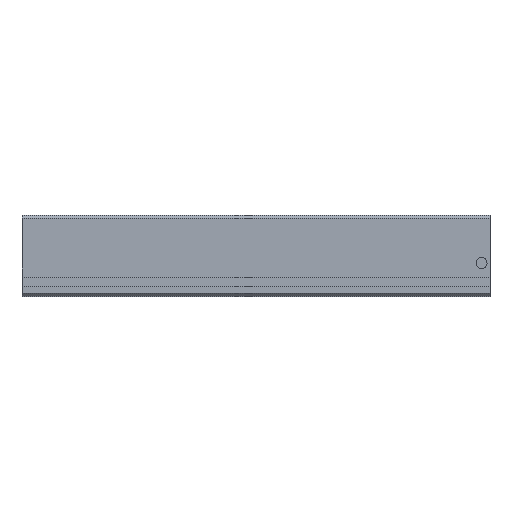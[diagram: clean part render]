
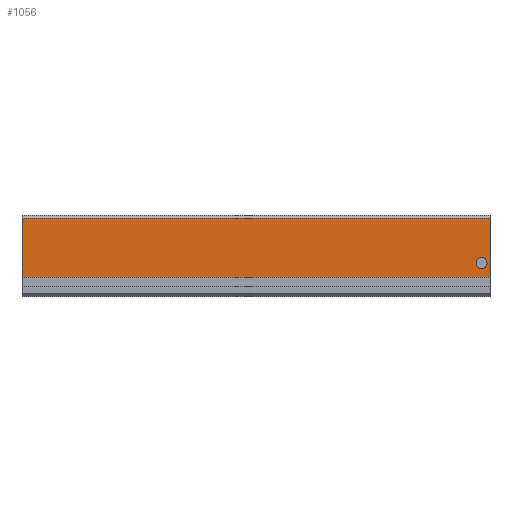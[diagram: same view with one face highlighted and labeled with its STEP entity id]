
A CAD part, top view. The second image highlights one B-rep face of the part: STEP entity #1056.
In plain terms, the highlighted planar face has unit normal (0, 0, 1).
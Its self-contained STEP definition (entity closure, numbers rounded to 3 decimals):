
#70 = VECTOR ( 'NONE', #278, 1000. ) ;
#88 = CARTESIAN_POINT ( 'NONE',  ( 160., 6.6, 0. ) ) ;
#139 = VECTOR ( 'NONE', #245, 1000. ) ;
#148 = VERTEX_POINT ( 'NONE', #944 ) ;
#175 = DIRECTION ( 'NONE',  ( -1., 0., 0. ) ) ;
#188 = DIRECTION ( 'NONE',  ( -1., 0., 0. ) ) ;
#245 = DIRECTION ( 'NONE',  ( -1., 0., 0. ) ) ;
#268 = EDGE_CURVE ( 'NONE', #1521, #1514, #743, .T. ) ;
#273 = CIRCLE ( 'NONE', #1932, 1.85 ) ;
#278 = DIRECTION ( 'NONE',  ( 0., -1., 0. ) ) ;
#325 = FACE_OUTER_BOUND ( 'NONE', #1881, .T. ) ;
#362 = ORIENTED_EDGE ( 'NONE', *, *, #1799, .T. ) ;
#364 = ORIENTED_EDGE ( 'NONE', *, *, #268, .F. ) ;
#423 = AXIS2_PLACEMENT_3D ( 'NONE', #1949, #1089, #188 ) ;
#468 = EDGE_CURVE ( 'NONE', #148, #2198, #1364, .T. ) ;
#470 = CARTESIAN_POINT ( 'NONE',  ( 159., 11.392, 0. ) ) ;
#579 = AXIS2_PLACEMENT_3D ( 'NONE', #2169, #1069, #175 ) ;
#666 = EDGE_CURVE ( 'NONE', #2198, #148, #273, .T. ) ;
#708 = CARTESIAN_POINT ( 'NONE',  ( 0., 6.6, 0. ) ) ;
#711 = PLANE ( 'NONE',  #579 ) ;
#729 = CARTESIAN_POINT ( 'NONE',  ( 0., 0., 0. ) ) ;
#743 = LINE ( 'NONE', #2084, #70 ) ;
#770 = CARTESIAN_POINT ( 'NONE',  ( 160., 26.7, 0. ) ) ;
#930 = ORIENTED_EDGE ( 'NONE', *, *, #666, .F. ) ;
#944 = CARTESIAN_POINT ( 'NONE',  ( 155.3, 11.392, 0. ) ) ;
#1003 = ORIENTED_EDGE ( 'NONE', *, *, #1025, .T. ) ;
#1025 = EDGE_CURVE ( 'NONE', #1430, #1131, #2167, .T. ) ;
#1056 = ADVANCED_FACE ( 'NONE', ( #1557, #325 ), #711, .F. ) ;
#1065 = LINE ( 'NONE', #708, #1178 ) ;
#1069 = DIRECTION ( 'NONE',  ( 0., 0., -1. ) ) ;
#1089 = DIRECTION ( 'NONE',  ( 0., 0., 1. ) ) ;
#1131 = VERTEX_POINT ( 'NONE', #2003 ) ;
#1173 = EDGE_LOOP ( 'NONE', ( #1736, #930 ) ) ;
#1178 = VECTOR ( 'NONE', #2313, 1000. ) ;
#1284 = CARTESIAN_POINT ( 'NONE',  ( 0., 26.7, 0. ) ) ;
#1364 = CIRCLE ( 'NONE', #423, 1.85 ) ;
#1430 = VERTEX_POINT ( 'NONE', #1284 ) ;
#1466 = CARTESIAN_POINT ( 'NONE',  ( 157.15, 11.392, 0. ) ) ;
#1514 = VERTEX_POINT ( 'NONE', #88 ) ;
#1521 = VERTEX_POINT ( 'NONE', #2064 ) ;
#1537 = ORIENTED_EDGE ( 'NONE', *, *, #2120, .T. ) ;
#1557 = FACE_BOUND ( 'NONE', #1173, .T. ) ;
#1736 = ORIENTED_EDGE ( 'NONE', *, *, #468, .F. ) ;
#1799 = EDGE_CURVE ( 'NONE', #1131, #1514, #1065, .T. ) ;
#1881 = EDGE_LOOP ( 'NONE', ( #364, #1537, #1003, #362 ) ) ;
#1932 = AXIS2_PLACEMENT_3D ( 'NONE', #1466, #2214, #2171 ) ;
#1949 = CARTESIAN_POINT ( 'NONE',  ( 157.15, 11.392, 0. ) ) ;
#2003 = CARTESIAN_POINT ( 'NONE',  ( 0., 6.6, 0. ) ) ;
#2064 = CARTESIAN_POINT ( 'NONE',  ( 160., 26.7, 0. ) ) ;
#2084 = CARTESIAN_POINT ( 'NONE',  ( 160., 0., 0. ) ) ;
#2120 = EDGE_CURVE ( 'NONE', #1521, #1430, #2203, .T. ) ;
#2155 = DIRECTION ( 'NONE',  ( 0., -1., 0. ) ) ;
#2167 = LINE ( 'NONE', #729, #2278 ) ;
#2169 = CARTESIAN_POINT ( 'NONE',  ( 160., 0., 0. ) ) ;
#2171 = DIRECTION ( 'NONE',  ( -1., 0., 0. ) ) ;
#2198 = VERTEX_POINT ( 'NONE', #470 ) ;
#2203 = LINE ( 'NONE', #770, #139 ) ;
#2214 = DIRECTION ( 'NONE',  ( 0., 0., 1. ) ) ;
#2278 = VECTOR ( 'NONE', #2155, 1000. ) ;
#2313 = DIRECTION ( 'NONE',  ( 1., 0., 0. ) ) ;
